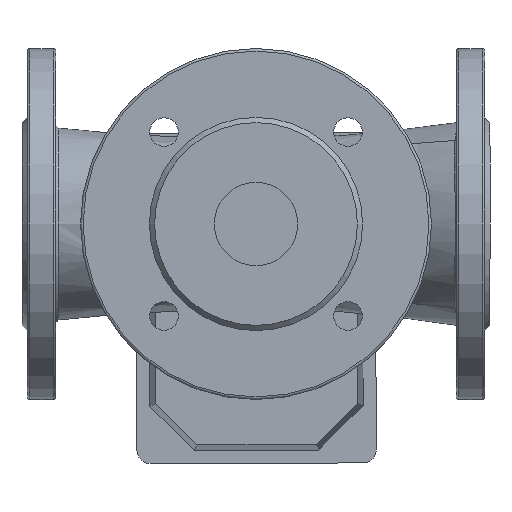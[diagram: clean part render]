
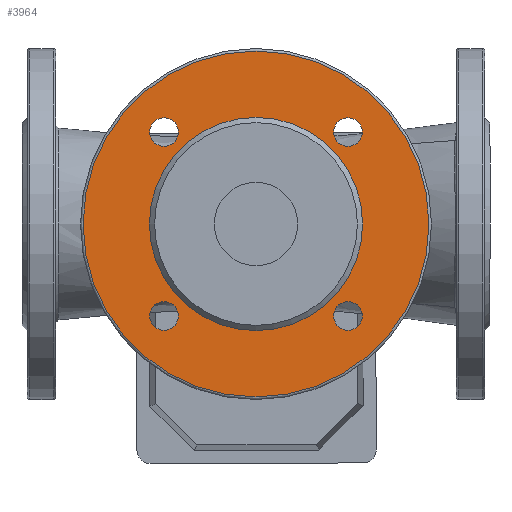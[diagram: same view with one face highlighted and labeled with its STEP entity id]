
A CAD part, front view. The second image highlights one B-rep face of the part: STEP entity #3964.
In plain terms, the highlighted planar face has unit normal (0, -1, 0).
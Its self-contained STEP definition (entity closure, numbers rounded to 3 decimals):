
#850=PLANE('',#4362);
#956=FACE_BOUND('',#1550,.T.);
#957=FACE_BOUND('',#1551,.T.);
#958=FACE_BOUND('',#1552,.T.);
#959=FACE_BOUND('',#1553,.T.);
#960=FACE_BOUND('',#1554,.T.);
#1210=FACE_OUTER_BOUND('',#1549,.T.);
#1549=EDGE_LOOP('',(#3611));
#1550=EDGE_LOOP('',(#3612));
#1551=EDGE_LOOP('',(#3613));
#1552=EDGE_LOOP('',(#3614));
#1553=EDGE_LOOP('',(#3615));
#1554=EDGE_LOOP('',(#3616));
#1724=CIRCLE('',#4300,5.5);
#1726=CIRCLE('',#4303,5.5);
#1728=CIRCLE('',#4306,5.5);
#1730=CIRCLE('',#4309,5.5);
#1760=CIRCLE('',#4361,41.);
#1761=CIRCLE('',#4363,66.5);
#2081=VERTEX_POINT('',#6465);
#2083=VERTEX_POINT('',#6470);
#2085=VERTEX_POINT('',#6475);
#2087=VERTEX_POINT('',#6480);
#2132=VERTEX_POINT('',#7838);
#2133=VERTEX_POINT('',#7841);
#2585=EDGE_CURVE('',#2081,#2081,#1724,.T.);
#2587=EDGE_CURVE('',#2083,#2083,#1726,.T.);
#2589=EDGE_CURVE('',#2085,#2085,#1728,.T.);
#2591=EDGE_CURVE('',#2087,#2087,#1730,.T.);
#2641=EDGE_CURVE('',#2132,#2132,#1760,.T.);
#2642=EDGE_CURVE('',#2133,#2133,#1761,.T.);
#3611=ORIENTED_EDGE('',*,*,#2642,.F.);
#3612=ORIENTED_EDGE('',*,*,#2585,.T.);
#3613=ORIENTED_EDGE('',*,*,#2587,.T.);
#3614=ORIENTED_EDGE('',*,*,#2589,.T.);
#3615=ORIENTED_EDGE('',*,*,#2591,.T.);
#3616=ORIENTED_EDGE('',*,*,#2641,.F.);
#3964=ADVANCED_FACE('',(#1210,#956,#957,#958,#959,#960),#850,.T.);
#4300=AXIS2_PLACEMENT_3D('',#6466,#5334,#5335);
#4303=AXIS2_PLACEMENT_3D('',#6471,#5340,#5341);
#4306=AXIS2_PLACEMENT_3D('',#6476,#5346,#5347);
#4309=AXIS2_PLACEMENT_3D('',#6481,#5352,#5353);
#4361=AXIS2_PLACEMENT_3D('',#7839,#5457,#5458);
#4362=AXIS2_PLACEMENT_3D('',#7840,#5459,#5460);
#4363=AXIS2_PLACEMENT_3D('',#7842,#5461,#5462);
#5334=DIRECTION('center_axis',(0.,1.,0.));
#5335=DIRECTION('ref_axis',(-0.581,0.,0.814));
#5340=DIRECTION('center_axis',(0.,1.,0.));
#5341=DIRECTION('ref_axis',(-0.814,0.,-0.581));
#5346=DIRECTION('center_axis',(0.,1.,0.));
#5347=DIRECTION('ref_axis',(0.581,0.,-0.814));
#5352=DIRECTION('center_axis',(0.,1.,0.));
#5353=DIRECTION('ref_axis',(0.814,0.,0.581));
#5457=DIRECTION('center_axis',(0.,-1.,0.));
#5458=DIRECTION('ref_axis',(0.814,0.,-0.581));
#5459=DIRECTION('center_axis',(0.,-1.,0.));
#5460=DIRECTION('ref_axis',(0.,0.,-1.));
#5461=DIRECTION('center_axis',(0.,1.,0.));
#5462=DIRECTION('ref_axis',(0.,0.,-1.));
#6465=CARTESIAN_POINT('',(1143.767,729.895,1185.176));
#6466=CARTESIAN_POINT('Origin',(1143.767,729.895,1179.676));
#6470=CARTESIAN_POINT('',(1138.267,729.895,1108.966));
#6471=CARTESIAN_POINT('Origin',(1143.767,729.895,1108.966));
#6475=CARTESIAN_POINT('',(1214.477,729.895,1103.466));
#6476=CARTESIAN_POINT('Origin',(1214.477,729.895,1108.966));
#6480=CARTESIAN_POINT('',(1219.977,729.895,1179.676));
#6481=CARTESIAN_POINT('Origin',(1214.477,729.895,1179.676));
#7838=CARTESIAN_POINT('',(1220.122,729.895,1144.321));
#7839=CARTESIAN_POINT('Origin',(1179.122,729.895,1144.321));
#7840=CARTESIAN_POINT('Origin',(1112.622,729.895,1144.321));
#7841=CARTESIAN_POINT('',(1245.622,729.895,1144.321));
#7842=CARTESIAN_POINT('Origin',(1179.122,729.895,1144.321));
